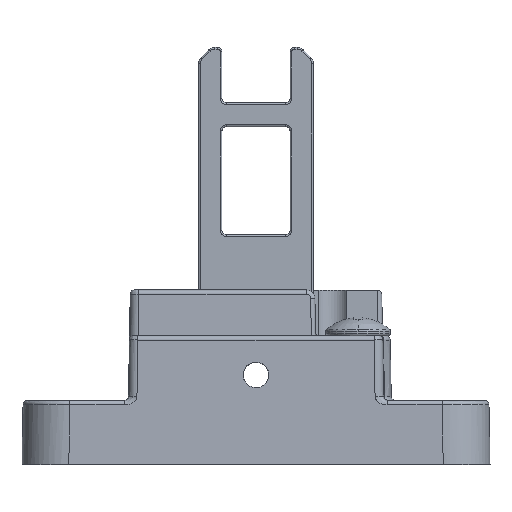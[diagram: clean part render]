
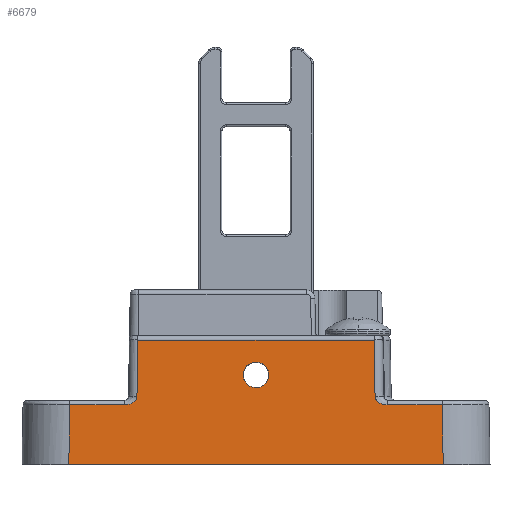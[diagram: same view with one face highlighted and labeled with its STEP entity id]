
A CAD part, top view. The second image highlights one B-rep face of the part: STEP entity #6679.
In plain terms, the highlighted planar face has unit normal (0, 0.018, 1).
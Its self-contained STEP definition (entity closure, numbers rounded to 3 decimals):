
#3429=CARTESIAN_POINT('',(-13.876,-5.891,
7.745));
#3471=CARTESIAN_POINT('',(1.5,-10.,7.817));
#3472=CARTESIAN_POINT('',(1.5,-9.823,7.814));
#3473=CARTESIAN_POINT('',(1.436,-9.441,7.807));
#3474=CARTESIAN_POINT('',(1.092,-8.908,7.798));
#3475=CARTESIAN_POINT('',(0.648,-8.621,
7.793));
#3476=CARTESIAN_POINT('',(0.271,-8.516,
7.791));
#3477=CARTESIAN_POINT('',(0.,-8.492,7.79));
#3478=CARTESIAN_POINT('',(-0.271,-8.516,
7.791));
#3479=CARTESIAN_POINT('',(-0.648,-8.621,
7.793));
#3480=CARTESIAN_POINT('',(-1.092,-8.908,
7.798));
#3481=CARTESIAN_POINT('',(-1.436,-9.441,
7.807));
#3482=CARTESIAN_POINT('',(-1.5,-9.823,7.814));
#3483=CARTESIAN_POINT('',(-1.5,-10.,7.817));
#3485=CARTESIAN_POINT('',(-1.5,-10.,7.817));
#3486=CARTESIAN_POINT('',(-1.5,-10.177,7.82));
#3487=CARTESIAN_POINT('',(-1.436,-10.559,
7.826));
#3488=CARTESIAN_POINT('',(-1.092,-11.092,
7.836));
#3489=CARTESIAN_POINT('',(-0.648,-11.379,
7.841));
#3490=CARTESIAN_POINT('',(-0.271,-11.484,
7.843));
#3491=CARTESIAN_POINT('',(0.,-11.508,7.843));
#3492=CARTESIAN_POINT('',(0.271,-11.484,
7.843));
#3493=CARTESIAN_POINT('',(0.648,-11.379,
7.841));
#3494=CARTESIAN_POINT('',(1.092,-11.092,7.836));
#3495=CARTESIAN_POINT('',(1.436,-10.559,7.826));
#3496=CARTESIAN_POINT('',(1.5,-10.177,7.82));
#3497=CARTESIAN_POINT('',(1.5,-10.,7.817));
#3499=CARTESIAN_POINT('',(-15.491,-13.491,
7.878));
#3500=CARTESIAN_POINT('',(-15.425,-13.491,
7.878));
#3501=CARTESIAN_POINT('',(-15.287,-13.492,
7.878));
#3502=CARTESIAN_POINT('',(-15.057,-13.473,
7.877));
#3503=CARTESIAN_POINT('',(-14.808,-13.419,
7.876));
#3504=CARTESIAN_POINT('',(-14.538,-13.306,
7.874));
#3505=CARTESIAN_POINT('',(-14.285,-13.123,
7.871));
#3506=CARTESIAN_POINT('',(-14.116,-12.921,
7.868));
#3507=CARTESIAN_POINT('',(-14.014,-12.709,
7.864));
#3508=CARTESIAN_POINT('',(-13.993,-12.575,
7.862));
#3509=CARTESIAN_POINT('',(-13.992,-12.509,
7.861));
#3511=DIRECTION('',(-0.017,-1.,0.017));
#3512=VECTOR('',#3511,6.619);
#3513=CARTESIAN_POINT('',(-13.876,-5.891,
7.745));
#3514=LINE('',#3513,#3512);
#3515=DIRECTION('',(-1.,0.,0.));
#3516=VECTOR('',#3515,27.752);
#3517=CARTESIAN_POINT('',(13.876,-5.891,7.745));
#3518=LINE('',#3517,#3516);
#3519=DIRECTION('',(-0.017,1.,-0.017));
#3520=VECTOR('',#3519,6.619);
#3521=CARTESIAN_POINT('',(13.992,-12.509,7.861));
#3522=LINE('',#3521,#3520);
#3523=CARTESIAN_POINT('',(13.992,-12.509,7.861));
#3524=CARTESIAN_POINT('',(13.993,-12.575,7.862));
#3525=CARTESIAN_POINT('',(14.014,-12.709,7.864));
#3526=CARTESIAN_POINT('',(14.115,-12.92,7.868));
#3527=CARTESIAN_POINT('',(14.284,-13.121,7.871));
#3528=CARTESIAN_POINT('',(14.534,-13.304,7.874));
#3529=CARTESIAN_POINT('',(14.807,-13.419,7.876));
#3530=CARTESIAN_POINT('',(15.057,-13.473,7.877));
#3531=CARTESIAN_POINT('',(15.287,-13.492,7.878));
#3532=CARTESIAN_POINT('',(15.426,-13.491,7.878));
#3533=CARTESIAN_POINT('',(15.491,-13.491,7.878));
#3535=DIRECTION('',(1.,0.,0.));
#3536=VECTOR('',#3535,6.387);
#3537=CARTESIAN_POINT('',(15.491,-13.491,7.878));
#3538=LINE('',#3537,#3536);
#3539=DIRECTION('',(-0.017,1.,-0.017));
#3540=VECTOR('',#3539,7.011);
#3541=CARTESIAN_POINT('',(22.001,-20.5,8.));
#3542=LINE('',#3541,#3540);
#3543=DIRECTION('',(1.,0.,0.));
#3544=VECTOR('',#3543,44.002);
#3545=CARTESIAN_POINT('',(-22.001,-20.5,8.));
#3546=LINE('',#3545,#3544);
#3547=DIRECTION('',(-0.017,-1.,0.017));
#3548=VECTOR('',#3547,7.011);
#3549=CARTESIAN_POINT('',(-21.878,-13.491,
7.878));
#3550=LINE('',#3549,#3548);
#3551=DIRECTION('',(1.,0.,0.));
#3552=VECTOR('',#3551,6.387);
#3553=CARTESIAN_POINT('',(-21.878,-13.491,
7.878));
#3554=LINE('',#3553,#3552);
#3987=CARTESIAN_POINT('',(22.001,-20.5,8.));
#4013=CARTESIAN_POINT('',(-22.001,-20.5,8.));
#4248=CARTESIAN_POINT('',(21.878,-13.491,7.878));
#5083=VERTEX_POINT('',#3471);
#5084=VERTEX_POINT('',#3483);
#5130=VERTEX_POINT('',#3987);
#5135=VERTEX_POINT('',#4013);
#5337=VERTEX_POINT('',#3429);
#5339=CARTESIAN_POINT('',(13.876,-5.891,7.745));
#5340=VERTEX_POINT('',#5339);
#5451=VERTEX_POINT('',#4248);
#5454=CARTESIAN_POINT('',(15.491,-13.491,7.878));
#5455=VERTEX_POINT('',#5454);
#5472=CARTESIAN_POINT('',(13.992,-12.509,7.861));
#5473=VERTEX_POINT('',#5472);
#5480=CARTESIAN_POINT('',(-21.878,-13.491,
7.878));
#5481=CARTESIAN_POINT('',(-15.491,-13.491,
7.878));
#5482=VERTEX_POINT('',#5480);
#5483=VERTEX_POINT('',#5481);
#5502=CARTESIAN_POINT('',(-13.992,-12.509,
7.861));
#5503=VERTEX_POINT('',#5502);
#6650=CARTESIAN_POINT('',(-28.23,-20.5,8.));
#6651=DIRECTION('',(0.,0.017,1.));
#6652=DIRECTION('',(-1.,0.,0.));
#6653=AXIS2_PLACEMENT_3D('',#6650,#6651,#6652);
#6654=PLANE('',#6653);
#6655=ORIENTED_EDGE('',*,*,#6641,.T.);
#6656=ORIENTED_EDGE('',*,*,#6514,.F.);
#6658=ORIENTED_EDGE('',*,*,#6657,.F.);
#6660=ORIENTED_EDGE('',*,*,#6659,.F.);
#6662=ORIENTED_EDGE('',*,*,#6661,.T.);
#6664=ORIENTED_EDGE('',*,*,#6663,.T.);
#6666=ORIENTED_EDGE('',*,*,#6665,.F.);
#6668=ORIENTED_EDGE('',*,*,#6667,.F.);
#6670=ORIENTED_EDGE('',*,*,#6669,.F.);
#6672=ORIENTED_EDGE('',*,*,#6671,.T.);
#6673=EDGE_LOOP('',(#6655,#6656,#6658,#6660,#6662,#6664,#6666,#6668,#6670,
#6672));
#6674=FACE_OUTER_BOUND('',#6673,.F.);
#6675=ORIENTED_EDGE('',*,*,#5842,.T.);
#6676=ORIENTED_EDGE('',*,*,#5871,.T.);
#6677=EDGE_LOOP('',(#6675,#6676));
#6678=FACE_BOUND('',#6677,.F.);
#3484=B_SPLINE_CURVE_WITH_KNOTS('',3,(#3471,#3472,#3473,#3474,#3475,#3476,#3477,
#3478,#3479,#3480,#3481,#3482,#3483),.UNSPECIFIED.,.F.,.F.,(4,1,1,1,1,1,1,1,1,1,
4),(0.,0.125,0.25,0.375,0.438,0.5,0.563,0.625,0.75,0.875,
1.),.UNSPECIFIED.);
#3498=B_SPLINE_CURVE_WITH_KNOTS('',3,(#3485,#3486,#3487,#3488,#3489,#3490,#3491,
#3492,#3493,#3494,#3495,#3496,#3497),.UNSPECIFIED.,.F.,.F.,(4,1,1,1,1,1,1,1,1,1,
4),(0.,0.125,0.25,0.375,0.438,0.5,0.563,0.625,0.75,0.875,
1.),.UNSPECIFIED.);
#3510=B_SPLINE_CURVE_WITH_KNOTS('',3,(#3499,#3500,#3501,#3502,#3503,#3504,#3505,
#3506,#3507,#3508,#3509),.UNSPECIFIED.,.F.,.F.,(4,1,1,1,1,1,1,1,4),(0.,
0.125,0.25,0.375,0.5,0.625,0.75,0.875,1.),.UNSPECIFIED.);
#3534=B_SPLINE_CURVE_WITH_KNOTS('',3,(#3523,#3524,#3525,#3526,#3527,#3528,#3529,
#3530,#3531,#3532,#3533),.UNSPECIFIED.,.F.,.F.,(4,1,1,1,1,1,1,1,4),(0.,
0.125,0.25,0.375,0.5,0.625,0.75,0.875,1.),.UNSPECIFIED.);
#5842=EDGE_CURVE('',#5083,#5084,#3484,.T.);
#5871=EDGE_CURVE('',#5084,#5083,#3498,.T.);
#6514=EDGE_CURVE('',#5337,#5503,#3514,.T.);
#6641=EDGE_CURVE('',#5483,#5503,#3510,.T.);
#6657=EDGE_CURVE('',#5340,#5337,#3518,.T.);
#6659=EDGE_CURVE('',#5473,#5340,#3522,.T.);
#6661=EDGE_CURVE('',#5473,#5455,#3534,.T.);
#6663=EDGE_CURVE('',#5455,#5451,#3538,.T.);
#6665=EDGE_CURVE('',#5130,#5451,#3542,.T.);
#6667=EDGE_CURVE('',#5135,#5130,#3546,.T.);
#6669=EDGE_CURVE('',#5482,#5135,#3550,.T.);
#6671=EDGE_CURVE('',#5482,#5483,#3554,.T.);
#6679=ADVANCED_FACE('',(#6674,#6678),#6654,.T.);
